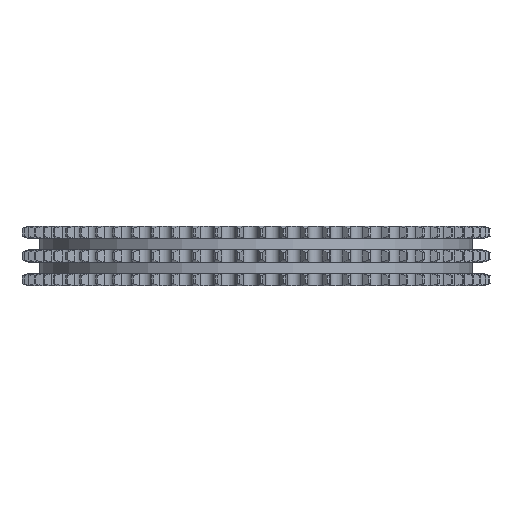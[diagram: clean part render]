
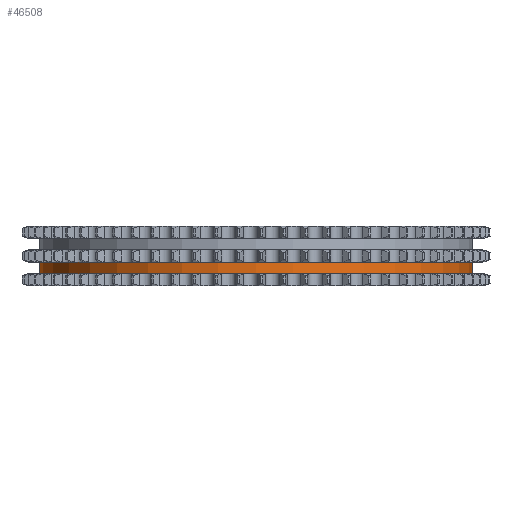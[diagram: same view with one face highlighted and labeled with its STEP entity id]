
A CAD part, left-side view. The second image highlights one B-rep face of the part: STEP entity #46508.
In plain terms, the highlighted cylindrical face has radius 92.575 mm (diameter 185.15 mm), a partial arc.
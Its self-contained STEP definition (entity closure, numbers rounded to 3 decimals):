
#8034=CARTESIAN_POINT('',(0.,0.,-7.5));
#8035=DIRECTION('',(0.,0.,1.));
#8036=DIRECTION('',(0.,1.,0.));
#8037=AXIS2_PLACEMENT_3D('',#8034,#8035,#8036);
#8562=DIRECTION('',(0.,0.,-1.));
#8563=VECTOR('',#8562,4.85);
#8564=CARTESIAN_POINT('',(0.,92.575,-2.65));
#8565=LINE('',#8564,#8563);
#8569=CARTESIAN_POINT('',(0.,0.,-2.65));
#8570=DIRECTION('',(0.,0.,1.));
#8571=DIRECTION('',(0.,1.,0.));
#8572=AXIS2_PLACEMENT_3D('',#8569,#8570,#8571);
#8577=DIRECTION('',(0.,0.,-1.));
#8578=VECTOR('',#8577,4.85);
#8579=CARTESIAN_POINT('',(0.,-92.575,-2.65));
#8580=LINE('',#8579,#8578);
#36581=CARTESIAN_POINT('',(0.,92.575,-2.65));
#36582=CARTESIAN_POINT('',(0.,92.575,-7.5));
#36583=VERTEX_POINT('',#36581);
#36584=VERTEX_POINT('',#36582);
#36585=CARTESIAN_POINT('',(0.,-92.575,-2.65));
#36586=CARTESIAN_POINT('',(0.,-92.575,-7.5));
#36587=VERTEX_POINT('',#36585);
#36588=VERTEX_POINT('',#36586);
#46494=CARTESIAN_POINT('',(0.,0.,8.25));
#46495=DIRECTION('',(0.,0.,-1.));
#46496=DIRECTION('',(0.,-1.,0.));
#46497=AXIS2_PLACEMENT_3D('',#46494,#46495,#46496);
#46498=CYLINDRICAL_SURFACE('',#46497,92.575);
#46500=ORIENTED_EDGE('',*,*,#46499,.F.);
#46502=ORIENTED_EDGE('',*,*,#46501,.T.);
#46504=ORIENTED_EDGE('',*,*,#46503,.T.);
#46505=ORIENTED_EDGE('',*,*,#46487,.F.);
#46506=EDGE_LOOP('',(#46500,#46502,#46504,#46505));
#46507=FACE_OUTER_BOUND('',#46506,.F.);
#46508=ADVANCED_FACE('',(#46507),#46498,.T.);
#8038=CIRCLE('',#8037,92.575);
#8573=CIRCLE('',#8572,92.575);
#46487=EDGE_CURVE('',#36584,#36588,#8038,.T.);
#46499=EDGE_CURVE('',#36583,#36584,#8565,.T.);
#46501=EDGE_CURVE('',#36583,#36587,#8573,.T.);
#46503=EDGE_CURVE('',#36587,#36588,#8580,.T.);
